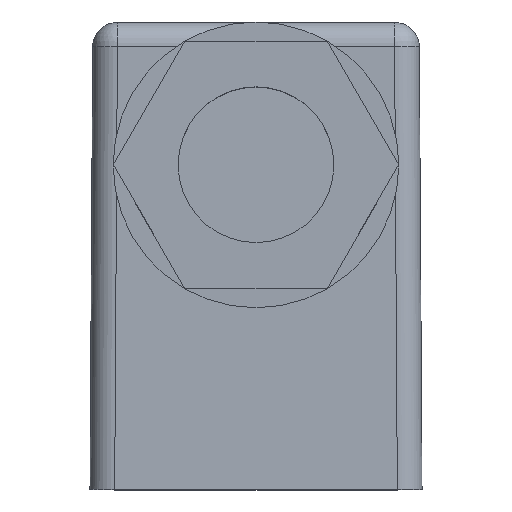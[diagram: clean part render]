
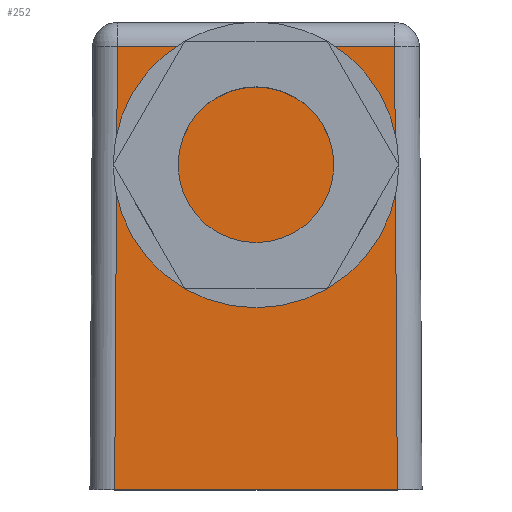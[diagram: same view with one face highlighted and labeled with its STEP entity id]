
A CAD part, top view. The second image highlights one B-rep face of the part: STEP entity #252.
In plain terms, the highlighted planar face has unit normal (0, 0.006, 1).
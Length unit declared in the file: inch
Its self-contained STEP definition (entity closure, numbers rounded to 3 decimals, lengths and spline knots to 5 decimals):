
#252 = ADVANCED_FACE ( 'NONE', ( #2980 ), #520, .T. ) ;
#520 = PLANE ( 'NONE',  #5679 ) ;
#1140 = EDGE_CURVE ( 'NONE', #8927, #13696, #12071, .T. ) ;
#1164 = CARTESIAN_POINT ( 'NONE',  ( 0.7775, 0., 0. ) ) ;
#1812 = ORIENTED_EDGE ( 'NONE', *, *, #11074, .T. ) ;
#2628 = DIRECTION ( 'NONE',  ( 0., -1., 0.006 ) ) ;
#2828 = CARTESIAN_POINT ( 'NONE',  ( 0., 0., 0. ) ) ;
#2980 = FACE_OUTER_BOUND ( 'NONE', #6871, .T. ) ;
#4914 = CARTESIAN_POINT ( 'NONE',  ( 0.77067, 1.11898, -0.00684 ) ) ;
#5413 = VECTOR ( 'NONE', #13049, 39.37008 ) ;
#5449 = VECTOR ( 'NONE', #7423, 39.37008 ) ;
#5679 = AXIS2_PLACEMENT_3D ( 'NONE', #2828, #7185, #2628 ) ;
#6871 = EDGE_LOOP ( 'NONE', ( #11850, #10694, #1812, #12133 ) ) ;
#7185 = DIRECTION ( 'NONE',  ( 0., 0.006, 1. ) ) ;
#7379 = CARTESIAN_POINT ( 'NONE',  ( 0.0625, -0.00038, 0. ) ) ;
#7423 = DIRECTION ( 'NONE',  ( -1., 0., 0. ) ) ;
#7701 = EDGE_CURVE ( 'NONE', #7956, #8927, #8717, .T. ) ;
#7956 = VERTEX_POINT ( 'NONE', #4914 ) ;
#8343 = LINE ( 'NONE', #8712, #5413 ) ;
#8712 = CARTESIAN_POINT ( 'NONE',  ( 0., 0., 0. ) ) ;
#8717 = LINE ( 'NONE', #12828, #5449 ) ;
#8927 = VERTEX_POINT ( 'NONE', #10861 ) ;
#9917 = EDGE_CURVE ( 'NONE', #11578, #7956, #10896, .T. ) ;
#10543 = VECTOR ( 'NONE', #12283, 39.37008 ) ;
#10620 = DIRECTION ( 'NONE',  ( -0.006, -1., 0.006 ) ) ;
#10694 = ORIENTED_EDGE ( 'NONE', *, *, #1140, .T. ) ;
#10861 = CARTESIAN_POINT ( 'NONE',  ( 0.06933, 1.11898, -0.00684 ) ) ;
#10896 = LINE ( 'NONE', #11163, #10543 ) ;
#11074 = EDGE_CURVE ( 'NONE', #13696, #11578, #8343, .T. ) ;
#11163 = CARTESIAN_POINT ( 'NONE',  ( 0.77747, 0.00475, -0.00003 ) ) ;
#11578 = VERTEX_POINT ( 'NONE', #1164 ) ;
#11850 = ORIENTED_EDGE ( 'NONE', *, *, #7701, .T. ) ;
#12071 = LINE ( 'NONE', #7379, #12423 ) ;
#12133 = ORIENTED_EDGE ( 'NONE', *, *, #9917, .T. ) ;
#12140 = CARTESIAN_POINT ( 'NONE',  ( 0.0625, 0., 0. ) ) ;
#12283 = DIRECTION ( 'NONE',  ( -0.006, 1., -0.006 ) ) ;
#12423 = VECTOR ( 'NONE', #10620, 39.37008 ) ;
#12828 = CARTESIAN_POINT ( 'NONE',  ( 0., 1.11898, -0.00684 ) ) ;
#13049 = DIRECTION ( 'NONE',  ( 1., 0., 0. ) ) ;
#13696 = VERTEX_POINT ( 'NONE', #12140 ) ;
